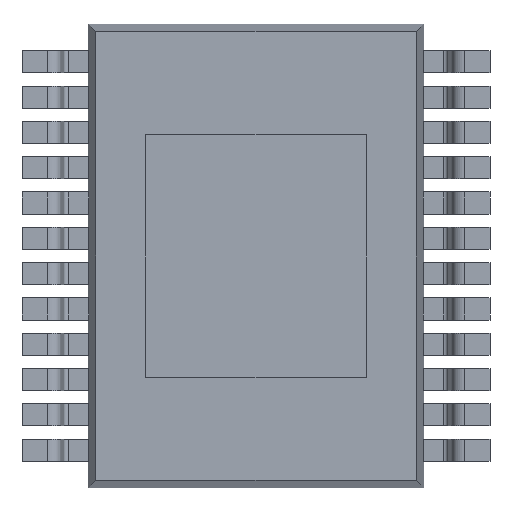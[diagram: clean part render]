
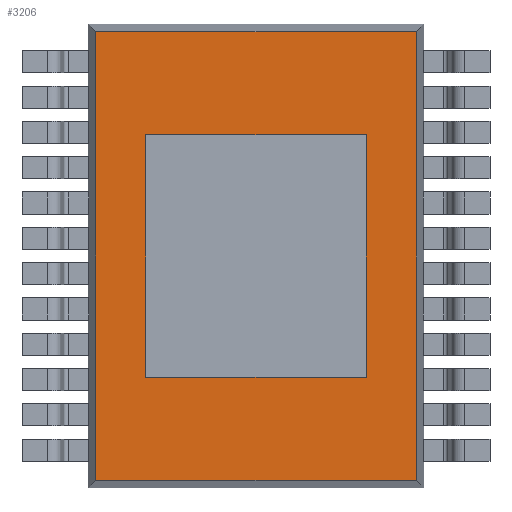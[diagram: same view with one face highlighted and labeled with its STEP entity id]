
A CAD part, front view. The second image highlights one B-rep face of the part: STEP entity #3206.
In plain terms, the highlighted planar face has unit normal (0, -1, 0).
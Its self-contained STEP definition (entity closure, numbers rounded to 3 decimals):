
#379 = EDGE_CURVE ( 'NONE', #12818, #12423, #10516, .T. ) ;
#483 = EDGE_CURVE ( 'NONE', #12393, #12400, #10317, .T. ) ;
#590 = EDGE_CURVE ( 'NONE', #12817, #12818, #10126, .T. ) ;
#591 = EDGE_CURVE ( 'NONE', #12421, #12817, #10120, .T. ) ;
#826 = EDGE_CURVE ( 'NONE', #12423, #12421, #15084, .T. ) ;
#827 = EDGE_CURVE ( 'NONE', #12400, #12379, #15083, .T. ) ;
#828 = EDGE_CURVE ( 'NONE', #12380, #12393, #15077, .T. ) ;
#837 = EDGE_CURVE ( 'NONE', #12379, #12380, #15038, .T. ) ;
#2863 = AXIS2_PLACEMENT_3D ( 'NONE', #7477, #7474, #7481 ) ;
#3206 = ADVANCED_FACE ( 'NONE', ( #8158, #8155 ), #7479, .F. ) ;
#7474 = DIRECTION ( 'NONE',  ( 0., 1., 0. ) ) ;
#7477 = CARTESIAN_POINT ( 'NONE',  ( 0., 0.05, 0. ) ) ;
#7479 = PLANE ( 'NONE',  #2863 ) ;
#7481 = DIRECTION ( 'NONE',  ( 0., 0., 1. ) ) ;
#7639 = CARTESIAN_POINT ( 'NONE',  ( -3.628, 0.05, 5.078 ) ) ;
#7640 = CARTESIAN_POINT ( 'NONE',  ( -3.628, 0.05, -5.078 ) ) ;
#7649 = CARTESIAN_POINT ( 'NONE',  ( 3.628, 0.05, -5.078 ) ) ;
#7656 = CARTESIAN_POINT ( 'NONE',  ( 3.628, 0.05, 5.078 ) ) ;
#7673 = CARTESIAN_POINT ( 'NONE',  ( 2.5, 0.05, 2.75 ) ) ;
#7675 = CARTESIAN_POINT ( 'NONE',  ( -2.5, 0.05, 2.75 ) ) ;
#7679 = CARTESIAN_POINT ( 'NONE',  ( 2.5, 0.05, -2.75 ) ) ;
#7680 = CARTESIAN_POINT ( 'NONE',  ( -2.5, 0.05, -2.75 ) ) ;
#8155 = FACE_OUTER_BOUND ( 'NONE', #11819, .T. ) ;
#8158 = FACE_BOUND ( 'NONE', #11823, .T. ) ;
#9034 = DIRECTION ( 'NONE',  ( 0., 0., -1. ) ) ;
#9036 = CARTESIAN_POINT ( 'NONE',  ( 2.5, 0.05, 0. ) ) ;
#9037 = DIRECTION ( 'NONE',  ( -1., 0., 0. ) ) ;
#9043 = CARTESIAN_POINT ( 'NONE',  ( 0., 0.05, -2.75 ) ) ;
#9315 = DIRECTION ( 'NONE',  ( 0., 0., 1. ) ) ;
#9316 = CARTESIAN_POINT ( 'NONE',  ( 3.628, 0.05, 5.25 ) ) ;
#9584 = DIRECTION ( 'NONE',  ( 0., 0., 1. ) ) ;
#9606 = CARTESIAN_POINT ( 'NONE',  ( -2.5, 0.05, 0. ) ) ;
#10117 = VECTOR ( 'NONE', #9034, 1000. ) ;
#10119 = VECTOR ( 'NONE', #9037, 1000. ) ;
#10120 = LINE ( 'NONE', #9036, #10117 ) ;
#10126 = LINE ( 'NONE', #9043, #10119 ) ;
#10314 = VECTOR ( 'NONE', #9315, 1000. ) ;
#10317 = LINE ( 'NONE', #9316, #10314 ) ;
#10511 = VECTOR ( 'NONE', #9584, 1000. ) ;
#10516 = LINE ( 'NONE', #9606, #10511 ) ;
#11227 = CARTESIAN_POINT ( 'NONE',  ( -3.628, 0.05, 5.25 ) ) ;
#11233 = DIRECTION ( 'NONE',  ( 0., 0., -1. ) ) ;
#11273 = DIRECTION ( 'NONE',  ( 1., 0., 0. ) ) ;
#11279 = CARTESIAN_POINT ( 'NONE',  ( 3.8, 0.05, -5.078 ) ) ;
#11280 = DIRECTION ( 'NONE',  ( -1., 0., 0. ) ) ;
#11286 = CARTESIAN_POINT ( 'NONE',  ( 3.8, 0.05, 5.078 ) ) ;
#11317 = CARTESIAN_POINT ( 'NONE',  ( 0., 0.05, 2.75 ) ) ;
#11337 = DIRECTION ( 'NONE',  ( 1., 0., 0. ) ) ;
#11819 = EDGE_LOOP ( 'NONE', ( #13869, #13871, #13874, #13877 ) ) ;
#11823 = EDGE_LOOP ( 'NONE', ( #13863, #13864, #13865, #13867 ) ) ;
#12379 = VERTEX_POINT ( 'NONE', #7639 ) ;
#12380 = VERTEX_POINT ( 'NONE', #7640 ) ;
#12393 = VERTEX_POINT ( 'NONE', #7649 ) ;
#12400 = VERTEX_POINT ( 'NONE', #7656 ) ;
#12421 = VERTEX_POINT ( 'NONE', #7673 ) ;
#12423 = VERTEX_POINT ( 'NONE', #7675 ) ;
#12817 = VERTEX_POINT ( 'NONE', #7679 ) ;
#12818 = VERTEX_POINT ( 'NONE', #7680 ) ;
#13863 = ORIENTED_EDGE ( 'NONE', *, *, #826, .T. ) ;
#13864 = ORIENTED_EDGE ( 'NONE', *, *, #591, .T. ) ;
#13865 = ORIENTED_EDGE ( 'NONE', *, *, #590, .T. ) ;
#13867 = ORIENTED_EDGE ( 'NONE', *, *, #379, .T. ) ;
#13869 = ORIENTED_EDGE ( 'NONE', *, *, #837, .T. ) ;
#13871 = ORIENTED_EDGE ( 'NONE', *, *, #828, .T. ) ;
#13874 = ORIENTED_EDGE ( 'NONE', *, *, #483, .T. ) ;
#13877 = ORIENTED_EDGE ( 'NONE', *, *, #827, .T. ) ;
#15029 = VECTOR ( 'NONE', #11233, 1000. ) ;
#15038 = LINE ( 'NONE', #11227, #15029 ) ;
#15074 = VECTOR ( 'NONE', #11273, 1000. ) ;
#15076 = VECTOR ( 'NONE', #11280, 1000. ) ;
#15077 = LINE ( 'NONE', #11279, #15074 ) ;
#15078 = VECTOR ( 'NONE', #11337, 1000. ) ;
#15083 = LINE ( 'NONE', #11286, #15076 ) ;
#15084 = LINE ( 'NONE', #11317, #15078 ) ;
